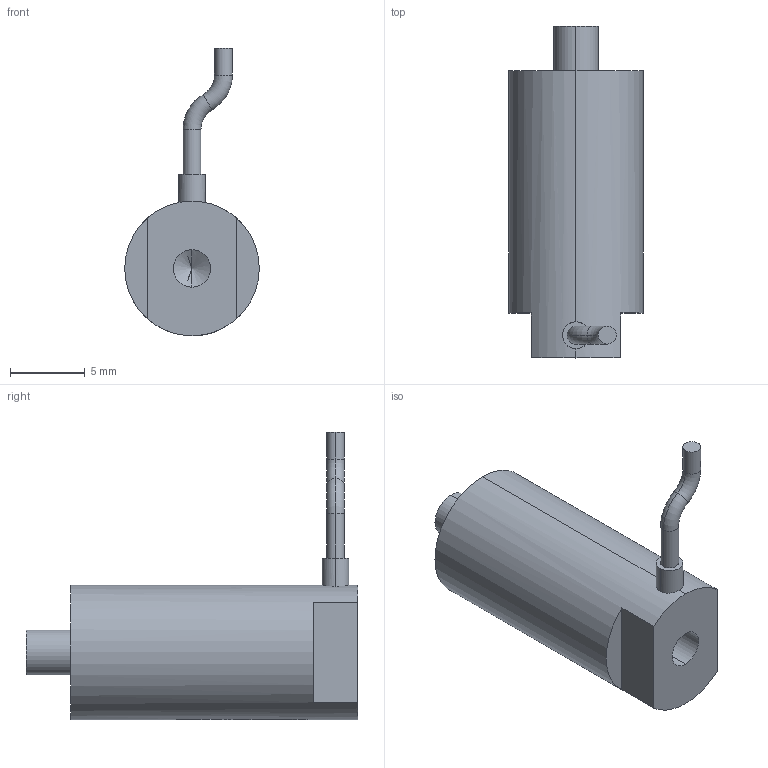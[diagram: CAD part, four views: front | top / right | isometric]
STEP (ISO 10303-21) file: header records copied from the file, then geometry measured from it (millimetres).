
FILE_DESCRIPTION (( 'STEP AP203' ), '1' );
FILE_NAME ('7VS9ﾍﾆｸﾋﾄﾚﾂﾝﾎﾆ.STEP', '2021-07-07T07:55:57', ( 'ﾎ｢ﾈ橆ﾃｻｧ' ), ( 'ﾎ｢ﾈ晥ｫﾋｾ' ), 'SwSTEP 2.0', 'SolidWorks 2016', '' );
FILE_SCHEMA (( 'CONFIG_CONTROL_DESIGN' ));
Length unit declared in the file: millimetre
Products named in the file (1): 7VS9芢裝囀蹟恇
Bounding box: 9 x 22.2 x 19.25 mm (x, y, z)
Volume: 1178.9 mm3; surface area: 805.2 mm2
Topology: 1 solids, 1 shells, 897 faces, 2415 edges, 1604 vertices
Faces by surface type: bspline 495, plane 292, cylinder 102, torus 4, cone 4
Entity records: 41383 total; most frequent: CARTESIAN_POINT 23279, ORIENTED_EDGE 4822, EDGE_CURVE 2411, DIRECTION 1831, B_SPLINE_CURVE_WITH_KNOTS 1634, VERTEX_POINT 1604, EDGE_LOOP 985, FACE_OUTER_BOUND 897
